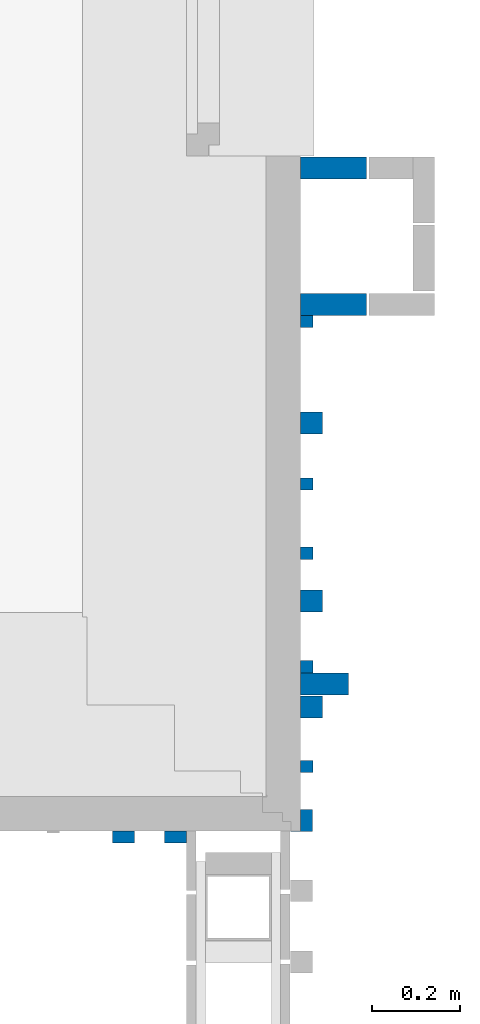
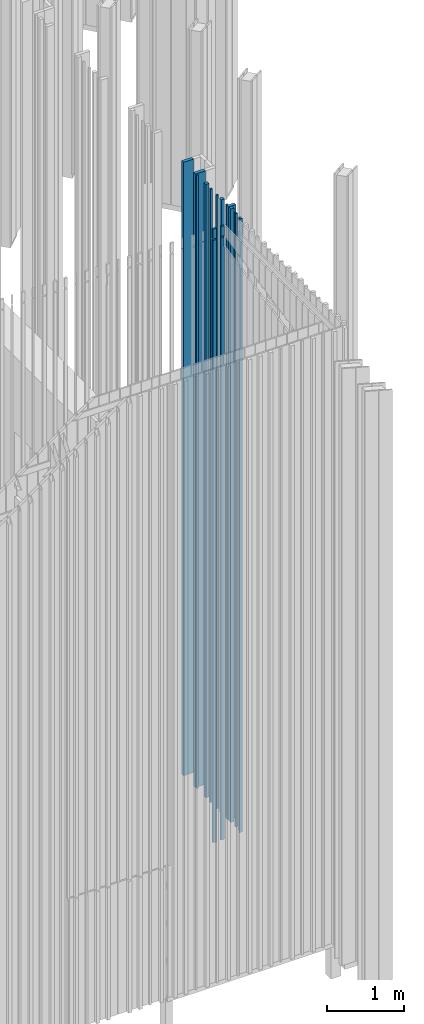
# One storey, part 176 of 390: 14 walls.
"""IFC2X3 building model written with IfcOpenShell, lengths in millimetres."""

from ifc_helpers import new_model, entity, si_unit, converted_unit, derived_unit, money_unit, direction, frame, origin_with_axes, place, context, subcontext, project, spatial, faceted_brep, material, material_list, type_object, element, save


model = new_model("IFC2X3")

# Units and contexts
model_context = context("Model", 3, precision=1e-05, world=origin_with_axes(), true_north=direction((0.0, 1.0)))
body_context = subcontext(model_context, "Body", "Model", "MODEL_VIEW")
ifc_project = project(units=[si_unit("LENGTHUNIT", "METRE", prefix="MILLI"), si_unit("AREAUNIT", "SQUARE_METRE"), si_unit("VOLUMEUNIT", "CUBIC_METRE"), converted_unit("PLANEANGLEUNIT", "DEGREE", entity("IfcPlaneAngleMeasure", 0.0174532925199), si_unit("PLANEANGLEUNIT", "RADIAN"), dimensions=[0, 0, 0, 0, 0, 0, 0]), si_unit("SOLIDANGLEUNIT", "STERADIAN"), money_unit("EUR"), converted_unit("TIMEUNIT", "Year", entity("IfcTimeMeasure", 31556926.0), si_unit("TIMEUNIT", "SECOND"), dimensions=[0, 0, 1, 0, 0, 0, 0]), si_unit("MASSUNIT", "GRAM", prefix="KILO"), si_unit("THERMODYNAMICTEMPERATUREUNIT", "DEGREE_CELSIUS"), si_unit("LUMINOUSINTENSITYUNIT", "LUMEN"), si_unit("ENERGYUNIT", "JOULE", prefix="MEGA"), derived_unit("THERMALCONDUCTANCEUNIT", [(si_unit("POWERUNIT", "WATT"), 1), (si_unit("LENGTHUNIT", "METRE"), -1), (si_unit("THERMODYNAMICTEMPERATUREUNIT", "KELVIN"), -1)]), derived_unit("SPECIFICHEATCAPACITYUNIT", [(si_unit("ENERGYUNIT", "JOULE"), 1), (si_unit("MASSUNIT", "GRAM", prefix="KILO"), -1), (si_unit("THERMODYNAMICTEMPERATUREUNIT", "KELVIN"), -1)]), derived_unit("MASSDENSITYUNIT", [(si_unit("MASSUNIT", "GRAM", prefix="KILO"), 1), (si_unit("VOLUMEUNIT", "CUBIC_METRE"), -1)])], contexts=[model_context])

# Site, building, storey
site_placement = place(None, origin_with_axes())
site = spatial("IfcSite", under=ifc_project, at=site_placement, Name="Site", CompositionType="ELEMENT")
building_placement = place(site_placement, origin_with_axes())
building = spatial("IfcBuilding", under=site, at=building_placement, Name="Building", CompositionType="ELEMENT")
storey_placement = place(building_placement, origin_with_axes())
storey = spatial("IfcBuildingStorey", under=building, at=storey_placement, Name="1 korrus", CompositionType="ELEMENT", Elevation=0.0)

# Walls
ifc_material = material(Name="Site specified")
ifc_material_list = material_list([ifc_material, ifc_material])
wall_type_1 = type_object("IfcWallType", Name="Puitfassaadi ribistik", PredefinedType="NOTDEFINED")
wall_1_placement = place(storey_placement, frame((139502.000037, 45260.9999168, 100.000000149), z_axis=(0.0, 0.0, 1.0), x_axis=(-1.0, 0.0, 0.0)))
element("IfcWall", 1, at=wall_1_placement, inside=storey, type_object=wall_type_1, material=ifc_material_list, Name="Site specified", context=body_context, shape_type="Brep", body=[
    faceted_brep([(-25.0, 25.0, 9764.99999985), (-25.0, 25.0, 9607.64736543), (-25.0, -2.00009159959, 9613.38641206), (-25.0, -2.00009159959, 9764.99999985), (25.0, 25.0, 9764.99999985), (25.0, 25.0, 9607.64736543), (25.0, -2.00009159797, 9613.38641206), (25.0, -2.00009159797, 9764.99999985)], [[[0, 1, 2, 3]], [[4, 5, 1, 0]], [[5, 6, 2, 1]], [[3, 2, 6, 7]], [[3, 7, 4, 0]], [[7, 6, 5, 4]]]),
    faceted_brep([(25.0, -2.0000915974, 9591.91725957), (-18.0000000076, -1.99984807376, 9591.91840526), (-18.0000000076, -2.00009159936, 9438.56735167), (-25.0, -2.00009159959, 9438.56735167), (-25.0, -1.99999528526, -3.12924797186e-06), (25.0, -1.99999528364, -3.12924797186e-06), (25.0, 25.0, 9586.17821294), (-18.0000000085, 25.0002406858, 9586.17934527), (-18.0000000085, 25.0, 9432.82829108), (-25.0, 25.0, 9432.82829108), (-25.0, 25.0, 0.0), (25.0, 25.0, 0.0)], [[[0, 1, 2, 3, 4, 5]], [[6, 7, 1, 0]], [[8, 2, 1, 7]], [[8, 9, 3, 2]], [[4, 3, 9, 10]], [[11, 5, 4, 10]], [[5, 11, 6, 0]], [[9, 8, 7, 6, 11, 10]]]),
])
wall_2_placement = place(storey_placement, frame((139384.000037, 45260.9999168, 100.000000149), z_axis=(0.0, 0.0, 1.0), x_axis=(-1.0, 0.0, 0.0)))
element("IfcWall", 2, at=wall_2_placement, inside=storey, type_object=wall_type_1, material=ifc_material_list, Name="Site specified", context=body_context, shape_type="Brep", body=[
    faceted_brep([(25.0, -1.99999528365, -3.12924797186e-06), (25.0, -2.00009159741, 9591.91725957), (-25.0, -2.00009159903, 9591.91725957), (-25.0, -1.99999528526, -3.12924797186e-06), (25.0, 25.0, 0.0), (25.0, 25.0, 9586.17821294), (-25.0, 25.0, 9586.17821294), (-25.0, 25.0, 0.0)], [[[0, 1, 2, 3]], [[4, 5, 1, 0]], [[5, 6, 2, 1]], [[3, 2, 6, 7]], [[0, 3, 7, 4]], [[7, 6, 5, 4]]]),
    faceted_brep([(-25.0, 25.0, 9764.99999985), (-25.0, 25.0, 9607.64736543), (-25.0, -2.00009159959, 9613.38641206), (-25.0, -2.00009159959, 9764.99999985), (25.0, 25.0, 9764.99999985), (25.0, 25.0, 9607.64736543), (25.0, -2.00009159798, 9613.38641206), (25.0, -2.00009159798, 9764.99999985)], [[[0, 1, 2, 3]], [[4, 5, 1, 0]], [[5, 6, 2, 1]], [[3, 2, 6, 7]], [[3, 7, 4, 0]], [[7, 6, 5, 4]]]),
])
wall_3_placement = place(storey_placement, frame((139841.499999, 45597.9999773, 100.000000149), z_axis=(0.0, 0.0, 1.0), x_axis=(0.0, -1.0, 0.0)))
element("IfcWall", 3, at=wall_3_placement, inside=storey, type_object=wall_type_1, material=ifc_material, Name="Site specified", context=body_context, shape_type="Brep", body=[
    faceted_brep([(-25.0, -54.5, 9764.99999985), (-25.0, -54.5, 0.0), (25.0, -54.5, 0.0), (25.0, -54.5, 9764.99999985), (-25.0, 54.5, 9764.99999985), (-25.0, 54.5, 0.0), (25.0, 54.5, 0.0), (25.0, 54.5, 9764.99999985)], [[[0, 1, 2, 3]], [[4, 5, 1, 0]], [[2, 1, 5, 6]], [[3, 2, 6, 7]], [[4, 0, 3, 7]], [[7, 6, 5, 4]]]),
])
for number, where, z_axis, x_axis, name in (
    (4, (139800.999999, 45636.9999773, 100.000000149), (0.0, 0.0, 1.0), (0.0, -1.0, 0.0), "Site specified"),
    (5, (139800.999999, 45894.9999773, 100.000000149), (0.0, 0.0, 1.0), (0.0, -1.0, 0.0), "Site specified"),
):
    element("IfcWall", number, at=place(storey_placement, frame(where, z_axis=z_axis, x_axis=x_axis)), inside=storey, type_object=wall_type_1, material=ifc_material, Name=name, context=body_context, shape_type="Brep", body=[
        faceted_brep([(-14.0, -14.0, 9764.99999985), (-14.0, -14.0, 0.0), (14.0, -14.0, 0.0), (14.0, -14.0, 9764.99999985), (-14.0, 14.0, 9764.99999985), (-14.0, 14.0, 0.0), (14.0, 14.0, 0.0), (14.0, 14.0, 9764.99999985)], [[[0, 1, 2, 3]], [[4, 5, 1, 0]], [[2, 1, 5, 6]], [[3, 2, 6, 7]], [[4, 0, 3, 7]], [[7, 6, 5, 4]]]),
    ])
for number, where, z_axis, x_axis, name in (
    (6, (139811.999999, 46191.9999773, 100.000000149), (0.0, 0.0, 1.0), (0.0, -1.0, 0.0), "Site specified"),
    (7, (139811.999999, 45785.9999773, 100.000000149), (0.0, 0.0, 1.0), (0.0, -1.0, 0.0), "Site specified"),
):
    element("IfcWall", number, at=place(storey_placement, frame(where, z_axis=z_axis, x_axis=x_axis)), inside=storey, type_object=wall_type_1, material=ifc_material, Name=name, context=body_context, shape_type="Brep", body=[
        faceted_brep([(-25.0, -25.0, 9764.99999985), (-25.0, -25.0, 0.0), (25.0, -25.0, 0.0), (25.0, -25.0, 9764.99999985), (-25.0, 25.0, 9764.99999985), (-25.0, 25.0, 0.0), (25.0, 25.0, 0.0), (25.0, 25.0, 9764.99999985)], [[[0, 1, 2, 3]], [[4, 5, 1, 0]], [[2, 1, 5, 6]], [[3, 2, 6, 7]], [[4, 0, 3, 7]], [[7, 6, 5, 4]]]),
    ])
for number, where, z_axis, x_axis, name in (
    (8, (139800.999999, 46052.9999773, 100.000000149), (0.0, 0.0, 1.0), (0.0, -1.0, 0.0), "Site specified"),
    (9, (139800.999999, 45409.9999773, 100.000000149), (0.0, 0.0, 1.0), (0.0, -1.0, 0.0), "Site specified"),
):
    element("IfcWall", number, at=place(storey_placement, frame(where, z_axis=z_axis, x_axis=x_axis)), inside=storey, type_object=wall_type_1, material=ifc_material, Name=name, context=body_context, shape_type="Brep", body=[
        faceted_brep([(-14.0, -14.0, 9764.99999985), (-14.0, -14.0, 0.0), (14.0, -14.0, 0.0), (14.0, -14.0, 9764.99999985), (-14.0, 14.0, 9764.99999985), (-14.0, 14.0, 0.0), (14.0, 14.0, 0.0), (14.0, 14.0, 9764.99999985)], [[[0, 1, 2, 3]], [[4, 5, 1, 0]], [[2, 1, 5, 6]], [[3, 2, 6, 7]], [[4, 0, 3, 7]], [[7, 6, 5, 4]]]),
    ])
wall_4_placement = place(storey_placement, frame((139811.999999, 45544.9999773, 100.000000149), z_axis=(0.0, 0.0, 1.0), x_axis=(0.0, -1.0, 0.0)))
element("IfcWall", 10, at=wall_4_placement, inside=storey, type_object=wall_type_1, material=ifc_material, Name="Site specified", context=body_context, shape_type="Brep", body=[
    faceted_brep([(-25.0, -25.0, 9764.99999985), (-25.0, -25.0, 0.0), (25.0, -25.0, 0.0), (25.0, -25.0, 9764.99999985), (-25.0, 25.0, 9764.99999985), (-25.0, 25.0, 0.0), (25.0, 25.0, 0.0), (25.0, 25.0, 9764.99999985)], [[[0, 1, 2, 3]], [[4, 5, 1, 0]], [[2, 1, 5, 6]], [[3, 2, 6, 7]], [[4, 0, 3, 7]], [[7, 6, 5, 4]]]),
])
wall_5_placement = place(storey_placement, frame((139800.999999, 46422.8244383, 100.000000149), z_axis=(0.0, 0.0, 1.0), x_axis=(0.0, -1.0, 0.0)))
element("IfcWall", 11, at=wall_5_placement, inside=storey, type_object=wall_type_1, material=ifc_material, Name="Site specified", context=body_context, shape_type="Brep", body=[
    faceted_brep([(-14.0, -14.0, 9764.99999985), (-14.0, -14.0, 0.0), (14.0, -14.0, 0.0), (14.0, -14.0, 9764.99999985), (-14.0, 14.0, 9764.99999985), (-14.0, 14.0, 0.0), (14.0, 14.0, 0.0), (14.0, 14.0, 9764.99999985)], [[[0, 1, 2, 3]], [[4, 5, 1, 0]], [[2, 1, 5, 6]], [[3, 2, 6, 7]], [[4, 0, 3, 7]], [[7, 6, 5, 4]]]),
])
wall_6_placement = place(storey_placement, frame((139789.000071, 45287.0000099, 100.000000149), z_axis=(0.0, 0.0, 1.0), x_axis=(0.0, -1.0, 0.0)))
element("IfcWall", 12, at=wall_6_placement, inside=storey, type_object=wall_type_1, material=ifc_material, Name="Site specified", context=body_context, shape_type="Brep", body=[
    faceted_brep([(-25.0, 25.0, 0.0), (-25.0, -2.0000747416, -3.12199510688e-06), (-25.0, -2.00007430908, 9764.99999985), (-25.0, 25.0, 9764.99999985), (24.0001059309, -24.0000747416, -3.12924797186e-06), (24.0001059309, -2.0000747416, -3.12924797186e-06), (25.0, 25.0, 0.0), (25.0, -25.0, 0.0), (24.0000977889, -25.0, -3.12924797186e-06), (23.9999994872, -2.00007430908, 9764.99999985), (23.999999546, -2.0000747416, 4699.99999864), (23.9999994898, -24.0000743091, 9764.99999985), (24.0000014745, -25.0, 9764.99999985), (25.0, -25.0, 9764.99999985), (25.0, 25.0, 9764.99999985), (23.999999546, -24.0000747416, 4699.99999864)], [[[0, 1, 2, 3]], [[4, 5, 1, 0, 6, 7, 8]], [[9, 2, 1, 5, 10]], [[2, 9, 11, 12, 13, 14, 3]], [[3, 14, 6, 0]], [[5, 4, 8, 12, 11, 15, 10]], [[14, 13, 7, 6]], [[12, 8, 7, 13]], [[9, 10, 15, 11]]]),
])
wall_type_2 = type_object("IfcWallType", Name="Puitfassaadi ribisik", PredefinedType="NOTDEFINED")
for number, where, z_axis, x_axis, name in (
    (13, (139861.999994, 46771.8244564, 100.000000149), (0.0, 0.0, 1.0), (-1.92421249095e-07, -1.0, 0.0), "Site specified"),
    (14, (139862.000004, 46461.8244239, 100.000000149), (0.0, 0.0, 1.0), (-1.92421249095e-07, -1.0, 0.0), "Site specified"),
):
    element("IfcWall", number, at=place(storey_placement, frame(where, z_axis=z_axis, x_axis=x_axis)), inside=storey, type_object=wall_type_2, material=ifc_material, Name=name, context=body_context, shape_type="Brep", body=[
        faceted_brep([(-25.0, -75.0, 9764.99999475), (-25.0, -75.0, 0.0), (25.0, -75.0, 0.0), (25.0, -75.0, 9764.99999475), (-25.0, 75.0, 9764.99999475), (-25.0, 75.0, 0.0), (25.0, 75.0, 0.0), (25.0, 75.0, 9764.99999475)], [[[0, 1, 2, 3]], [[4, 5, 1, 0]], [[2, 1, 5, 6]], [[3, 2, 6, 7]], [[4, 0, 3, 7]], [[7, 6, 5, 4]]]),
    ])

save(model, "model.ifc")
